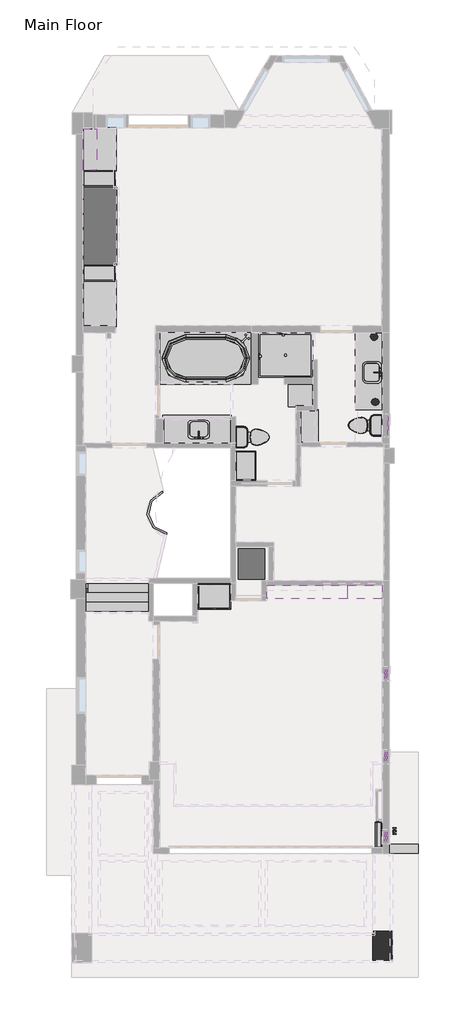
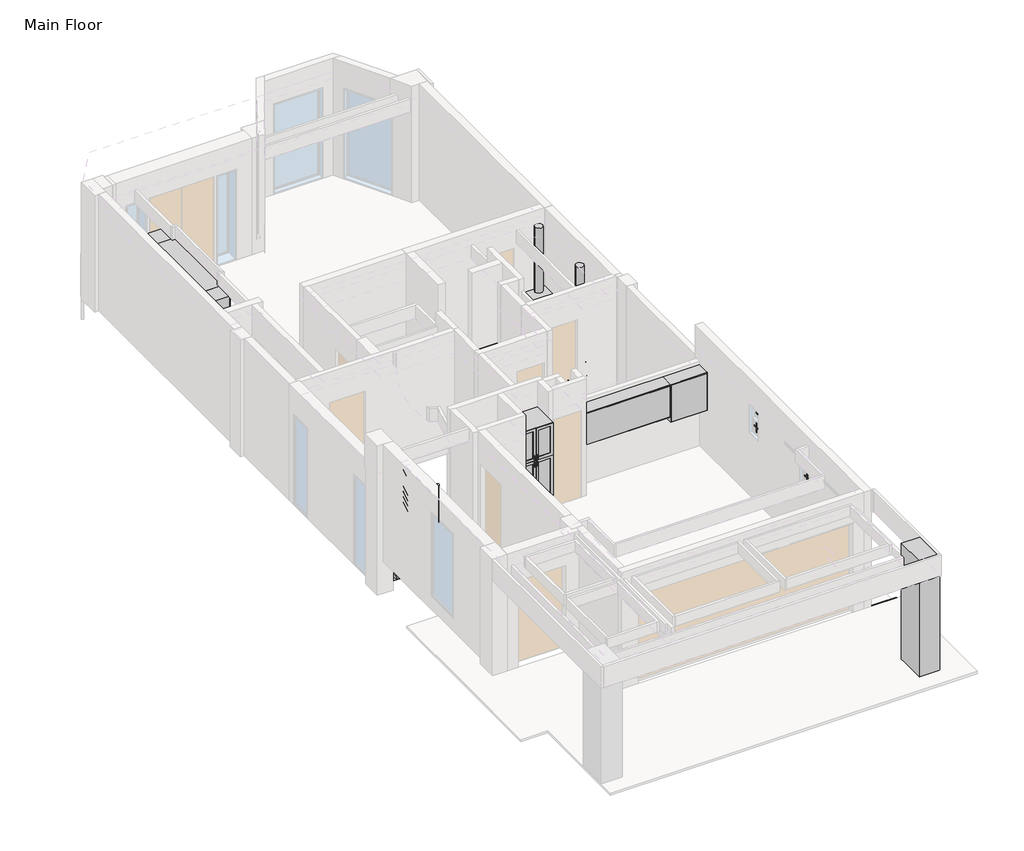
# One storey, part 4 of 4: 16 proxies, 8 flow terminals, 8 furniture elements, 3 columns, 2 railings, 2 stair flights.
"""IFC4 building model written with IfcOpenShell, lengths in millimetres."""

from ifc_helpers import new_model, si_unit, point, frame, frame_2d, origin, origin_with_axes, place, context, project, spatial, circle_curve, ellipse_curve, trimmed, segment, composite_curve, outline, extrude, faceted_brep, transform, mapped, element, save
from ifc_brep_helpers import plane_surface, revolved_surface, advanced_brep
from components import countertop_rectangle_shape_base_default_1_f1c427c6, countertop_rectangle_shape_base_default_1_d7b4d32e, countertop_rectangle_shape_base_default_1_7ad85c83, countertop_rectangle_shape_base_default_1_01a669eb, countertop_rectangle_shape_base_default_1_347bcdbc, countertop_rectangle_shape_base_default_1_d2164e0d, fireplace_default_1_940fdbfd, furnace_default_1_517aed99, hydro_meter_default_1_de04d33e, muntin_pattern_2x2_muntin_pattern_2x2_4ad91a20, muntin_pattern_2x2_muntin_pattern_2x2_75d79e6a, circular_column_3d_default_1_31dfe619, bath_shower_basin_rectangular_default_1_dcf8d1a9, bath_basin_do_not_use_500_x_440mm_22030706, bath_bathtub_angled_default_1_9777f4e5, default_1_a9700879, toilet_default_1_5cb52bd4, toilet_default_1_183bbd19, tall_cabinet_double_door_4_default_1_71ebce0d, tall_cabinet_double_door_4_default_1_548ee5f5, furniture_472c0a81, furniture_db22b6f1, upper_cabinet_single_door_wall_0_6_8ed0c04b, furniture_8603a8dd, furniture_cd85d869, furniture_00f4c585, railing_900mm_rectangular_stringer_only_800a5a53, stair_flight_50mm_tread_25mm_nosing_13mm_riser_26bbdbce, stair_flight_50mm_tread_25mm_nosing_13mm_riser_fec5b2e2

model = new_model("IFC4")

# Units and contexts
model_context = context("Model", 3, world=origin())
ifc_project = project(units=[si_unit("LENGTHUNIT", "METRE", prefix="MILLI")], contexts=[model_context])

# Site, building, storey
site = spatial("IfcSite", under=ifc_project)
building = spatial("IfcBuilding", under=site)
storey = spatial("IfcBuildingStorey", under=building, Name="Main Floor", Elevation=0.0)

# Proxies
placement = place(None, origin())
countertop_rectangle_shape_base_default_1_shape = countertop_rectangle_shape_base_default_1_f1c427c6(model_context)
element("IfcBuildingElementProxy", 1, Name="Countertop- Rectangle shape base : Default 1", ObjectType="Countertop- Rectangle shape base : Default 1", at=placement, inside=storey, context=model_context, shape_type="MappedRepresentation", body=[
    mapped(countertop_rectangle_shape_base_default_1_shape, transform((-4022.725, 6762.75, 0.0), x_axis=(1.0, 0.0, 0.0), y_axis=(0.0, 1.0, 0.0), z_axis=(0.0, 0.0, 1.0))),
])
countertop_rectangle_shape_base_default_1_2_shape = countertop_rectangle_shape_base_default_1_d7b4d32e(model_context)
element("IfcBuildingElementProxy", 2, Name="Countertop- Rectangle shape base : Default 1", ObjectType="Countertop- Rectangle shape base : Default 1", at=placement, inside=storey, context=model_context, shape_type="MappedRepresentation", body=[
    mapped(countertop_rectangle_shape_base_default_1_2_shape, transform((-1577.975, 7578.725, 0.0), x_axis=(1.0, 0.0, 0.0), y_axis=(0.0, 1.0, 0.0), z_axis=(0.0, 0.0, 1.0))),
])
countertop_rectangle_shape_base_default_1_3_shape = countertop_rectangle_shape_base_default_1_7ad85c83(model_context)
element("IfcBuildingElementProxy", 3, Name="Countertop- Rectangle shape base : Default 1", ObjectType="Countertop- Rectangle shape base : Default 1", at=placement, inside=storey, context=model_context, shape_type="MappedRepresentation", body=[
    mapped(countertop_rectangle_shape_base_default_1_3_shape, transform((1174.75, 7762.875, 0.0), x_axis=(0.0, 1.0, 0.0), y_axis=(-1.0, 0.0, 0.0), z_axis=(0.0, 0.0, 1.0))),
])
countertop_rectangle_shape_base_default_1_4_shape = countertop_rectangle_shape_base_default_1_01a669eb(model_context)
element("IfcBuildingElementProxy", 4, Name="Countertop- Rectangle shape base : Default 1", ObjectType="Countertop- Rectangle shape base : Default 1", at=placement, inside=storey, context=model_context, shape_type="MappedRepresentation", body=[
    mapped(countertop_rectangle_shape_base_default_1_4_shape, transform((-1384.3, 6838.95, 0.0), x_axis=(1.0, 0.0, 0.0), y_axis=(0.0, 1.0, 0.0), z_axis=(0.0, 0.0, 1.0))),
])
countertop_rectangle_shape_base_default_1_5_shape = countertop_rectangle_shape_base_default_1_347bcdbc(model_context)
element("IfcBuildingElementProxy", 5, Name="Countertop- Rectangle shape base : Default 1", ObjectType="Countertop- Rectangle shape base : Default 1", at=placement, inside=storey, context=model_context, shape_type="MappedRepresentation", body=[
    mapped(countertop_rectangle_shape_base_default_1_5_shape, transform((-5949.95, 10877.55, 0.0), x_axis=(0.0, -1.0, 0.0), y_axis=(1.0, 0.0, 0.0), z_axis=(0.0, 0.0, 1.0))),
])
countertop_rectangle_shape_base_default_1_6_shape = countertop_rectangle_shape_base_default_1_d2164e0d(model_context)
element("IfcBuildingElementProxy", 6, Name="Countertop- Rectangle shape base : Default 1", ObjectType="Countertop- Rectangle shape base : Default 1", at=placement, inside=storey, context=model_context, shape_type="MappedRepresentation", body=[
    mapped(countertop_rectangle_shape_base_default_1_6_shape, transform((-5949.95, 12985.75, 0.0), x_axis=(0.0, 1.0, 0.0), y_axis=(-1.0, 0.0, 0.0), z_axis=(0.0, 0.0, 1.0))),
])
fireplace_default_1_shape = fireplace_default_1_940fdbfd(model_context)
element("IfcBuildingElementProxy", 7, Name="Fireplace : Default 1", ObjectType="Fireplace : Default 1", at=placement, inside=storey, context=model_context, shape_type="MappedRepresentation", body=[
    mapped(fireplace_default_1_shape, transform((-6049.95, 11947.525, 0.0), x_axis=(0.0, 1.0, 0.0), y_axis=(-1.0, 0.0, 0.0), z_axis=(0.0, 0.0, 1.0))),
])
furnace_default_1_shape = furnace_default_1_517aed99(model_context)
element("IfcBuildingElementProxy", 8, Name="Furnace : Default 1", ObjectType="Furnace : Default 1", at=placement, inside=storey, context=model_context, shape_type="MappedRepresentation", body=[
    mapped(furnace_default_1_shape, transform((-2286.0, 3613.15, 762.0), x_axis=(-1.0, 0.0, 0.0), y_axis=(0.0, -1.0, 0.0), z_axis=(0.0, 0.0, 1.0))),
])
hydro_meter_default_1_shape = hydro_meter_default_1_de04d33e(model_context)
element("IfcBuildingElementProxy", 9, Name="Hydro Meter : Default 1", ObjectType="Hydro Meter : Default 1", at=placement, inside=storey, context=model_context, shape_type="MappedRepresentation", body=[
    mapped(hydro_meter_default_1_shape, transform((1270.0, -2145.5585279, 457.2), x_axis=(0.0, -1.0, 0.0), y_axis=(1.0, 0.0, 0.0), z_axis=(0.0, 0.0, 1.0))),
])
muntin_pattern_2x2_muntin_pattern_2x2_shape = muntin_pattern_2x2_muntin_pattern_2x2_4ad91a20(model_context)
element("IfcBuildingElementProxy", 10, Name="Muntin Pattern_2x2 : Muntin Pattern_2x2", ObjectType="Muntin Pattern_2x2 : Muntin Pattern_2x2", at=placement, inside=storey, context=model_context, shape_type="MappedRepresentation", body=[
    mapped(muntin_pattern_2x2_muntin_pattern_2x2_shape, transform((1235.075, -568.325, 2587.625), x_axis=(0.0, -1.0, 0.0), y_axis=(1.0, 0.0, 0.0), z_axis=(0.0, 0.0, 1.0))),
])
element("IfcBuildingElementProxy", 11, Name="Muntin Pattern_2x2 : Muntin Pattern_2x2", ObjectType="Muntin Pattern_2x2 : Muntin Pattern_2x2", at=placement, inside=storey, context=model_context, shape_type="MappedRepresentation", body=[
    mapped(muntin_pattern_2x2_muntin_pattern_2x2_shape, transform((1190.625, -568.325, 2311.4), x_axis=(0.0, -1.0, 0.0), y_axis=(1.0, 0.0, 0.0), z_axis=(0.0, 0.0, 1.0))),
])
element("IfcBuildingElementProxy", 12, Name="Muntin Pattern_2x2 : Muntin Pattern_2x2", ObjectType="Muntin Pattern_2x2 : Muntin Pattern_2x2", at=placement, inside=storey, context=model_context, shape_type="MappedRepresentation", body=[
    mapped(muntin_pattern_2x2_muntin_pattern_2x2_shape, transform((1235.075, -2459.0375, 2587.625), x_axis=(0.0, -1.0, 0.0), y_axis=(1.0, 0.0, 0.0), z_axis=(0.0, 0.0, 1.0))),
])
element("IfcBuildingElementProxy", 13, Name="Muntin Pattern_2x2 : Muntin Pattern_2x2", ObjectType="Muntin Pattern_2x2 : Muntin Pattern_2x2", at=placement, inside=storey, context=model_context, shape_type="MappedRepresentation", body=[
    mapped(muntin_pattern_2x2_muntin_pattern_2x2_shape, transform((1190.625, -2459.0375, 2311.4), x_axis=(0.0, -1.0, 0.0), y_axis=(1.0, 0.0, 0.0), z_axis=(0.0, 0.0, 1.0))),
])
element("IfcBuildingElementProxy", 14, Name="Muntin Pattern_2x2 : Muntin Pattern_2x2", ObjectType="Muntin Pattern_2x2 : Muntin Pattern_2x2", at=placement, inside=storey, context=model_context, shape_type="MappedRepresentation", body=[
    mapped(muntin_pattern_2x2_muntin_pattern_2x2_shape, transform((1235.075, 1381.125, 2587.625), x_axis=(0.0, -1.0, 0.0), y_axis=(1.0, 0.0, 0.0), z_axis=(0.0, 0.0, 1.0))),
])
element("IfcBuildingElementProxy", 15, Name="Muntin Pattern_2x2 : Muntin Pattern_2x2", ObjectType="Muntin Pattern_2x2 : Muntin Pattern_2x2", at=placement, inside=storey, context=model_context, shape_type="MappedRepresentation", body=[
    mapped(muntin_pattern_2x2_muntin_pattern_2x2_shape, transform((1190.625, 1381.125, 2311.4), x_axis=(0.0, -1.0, 0.0), y_axis=(1.0, 0.0, 0.0), z_axis=(0.0, 0.0, 1.0))),
])
muntin_pattern_2x2_muntin_pattern_2x2_2_shape = muntin_pattern_2x2_muntin_pattern_2x2_75d79e6a(model_context)
element("IfcBuildingElementProxy", 16, Name="Muntin Pattern_2x2 : Muntin Pattern_2x2", ObjectType="Muntin Pattern_2x2 : Muntin Pattern_2x2", at=placement, inside=storey, context=model_context, shape_type="MappedRepresentation", body=[
    mapped(muntin_pattern_2x2_muntin_pattern_2x2_2_shape, transform((1260.475, 7243.7625, 1441.45), x_axis=(0.0, 1.0, 0.0), y_axis=(-1.0, 0.0, 0.0), z_axis=(0.0, 0.0, 1.0))),
])

# Columns
circular_column_3d_default_1_shape = circular_column_3d_default_1_31dfe619(model_context)
element("IfcColumn", 17, ObjectType="Circular Column 3D : Default 1", at=placement, inside=storey, context=model_context, shape_type="MappedRepresentation", body=[
    mapped(circular_column_3d_default_1_shape, transform((939.8, 7797.8, 0.0), x_axis=(1.0, 0.0, 0.0), y_axis=(0.0, 1.0, 0.0), z_axis=(0.0, 0.0, 1.0))),
])
element("IfcColumn", 18, ObjectType="Circular Column 3D : Default 1", at=placement, inside=storey, context=model_context, shape_type="MappedRepresentation", body=[
    mapped(circular_column_3d_default_1_shape, transform((914.4, 9334.5, 0.0), x_axis=(1.0, 0.0, 0.0), y_axis=(0.0, 1.0, 0.0), z_axis=(0.0, 0.0, 1.0))),
])
element("IfcColumn", 19, ObjectType="Rectangular Column 3D : Default 1", at=placement, inside=storey, context=model_context, shape_type="Brep", body=[
    faceted_brep([(882.65, -4692.65, 3492.5), (882.65, -5378.45, 3492.5), (1296.492578, -5378.45, 3492.5), (1296.492578, -4692.65, 3492.5), (1339.85, -4692.65, 762.0), (1339.85, -5378.45, 762.0), (882.65, -5378.45, 762.0), (882.65, -4692.65, 762.0), (882.65, -4692.65, 3009.9), (933.45, -4692.65, 3009.9), (933.45, -4692.65, 3213.1), (882.65, -4692.65, 3213.1), (1296.492578, -4692.65, 3009.9), (1339.85, -4692.65, 3009.9), (882.65, -4740.4040809, 3213.1), (882.65, -4791.2040809, 3213.1), (882.65, -4791.2040809, 3009.9), (882.65, -4740.4040809, 3009.9), (1339.85, -5378.45, 3009.9), (1296.492578, -5378.45, 3009.9), (933.45, -4791.2040809, 3213.1), (933.45, -4791.2040809, 3009.9), (933.45, -4740.4040809, 3213.1), (933.45, -4740.4040809, 3009.9)], [[[0, 1, 2, 3]], [[4, 5, 6, 7]], [[4, 7, 8, 9, 10, 11, 0, 3, 12, 13]], [[1, 0, 11, 14, 15, 16, 17, 8, 7, 6]], [[6, 5, 18, 19, 2, 1]], [[5, 4, 13, 18]], [[15, 20, 21, 16]], [[20, 15, 14, 22]], [[16, 21, 23, 17]], [[22, 10, 9, 23]], [[10, 22, 14, 11]], [[21, 20, 22, 23]], [[23, 9, 8, 17]], [[19, 12, 3, 2]], [[12, 19, 18, 13]]]),
])

# Flow terminals
bath_shower_basin_rectangular_default_1_shape = bath_shower_basin_rectangular_default_1_dcf8d1a9(model_context)
element("IfcFlowTerminal", 20, ObjectType="Bath- Shower - Basin Rectangular : Default 1", at=placement, inside=storey, context=model_context, shape_type="MappedRepresentation", body=[
    mapped(bath_shower_basin_rectangular_default_1_shape, transform((-1177.925, 8902.7, 0.0), x_axis=(0.0, -1.0, 0.0), y_axis=(1.0, 0.0, 0.0), z_axis=(0.0, 0.0, 1.0))),
])
bath_basin_do_not_use_500_x_440mm_shape = bath_basin_do_not_use_500_x_440mm_22030706(model_context)
element("IfcFlowTerminal", 21, ObjectType="Bath-Basin DO NOT USE : 500 x 440mm", at=placement, inside=storey, context=model_context, shape_type="MappedRepresentation", body=[
    mapped(bath_basin_do_not_use_500_x_440mm_shape, transform((-3206.7107594, 7108.0454011, 152.4), x_axis=(-1.0, 0.0, 0.0), y_axis=(0.0, -1.0, 0.0), z_axis=(0.0, 0.0, 1.0))),
])
element("IfcFlowTerminal", 22, ObjectType="Bath-Basin DO NOT USE : 500 x 440mm", at=placement, inside=storey, context=model_context, shape_type="MappedRepresentation", body=[
    mapped(bath_basin_do_not_use_500_x_440mm_shape, transform((901.2545989, 8508.6892406, 152.4), x_axis=(0.0, -1.0, 0.0), y_axis=(1.0, 0.0, 0.0), z_axis=(0.0, 0.0, 1.0))),
])
bath_bathtub_angled_default_1_shape = bath_bathtub_angled_default_1_9777f4e5(model_context)
element("IfcFlowTerminal", 23, ObjectType="Bath-Bathtub Angled : Default 1", at=placement, inside=storey, context=model_context, shape_type="MappedRepresentation", body=[
    mapped(bath_bathtub_angled_default_1_shape, transform((-3060.7, 8826.5, 0.0), x_axis=(0.0, 1.0, 0.0), y_axis=(-1.0, 0.0, 0.0), z_axis=(0.0, 0.0, 1.0))),
])
default_1_shape = default_1_a9700879(model_context)
element("IfcFlowTerminal", 24, ObjectType="Bath-Showerhead : Default 1", at=placement, inside=storey, context=model_context, shape_type="MappedRepresentation", body=[
    mapped(default_1_shape, transform((-1816.1, 8870.95, 0.0), x_axis=(0.0, 1.0, 0.0), y_axis=(-1.0, 0.0, 0.0), z_axis=(0.0, 0.0, 1.0))),
])
element("IfcFlowTerminal", 25, ObjectType="Bath-Showerhead : Default 1", at=placement, inside=storey, context=model_context, shape_type="MappedRepresentation", body=[
    mapped(default_1_shape, transform((-1231.9, 9423.4, 0.0), x_axis=(1.0, 0.0, 0.0), y_axis=(0.0, 1.0, 0.0), z_axis=(0.0, 0.0, 1.0))),
])
toilet_default_1_shape = toilet_default_1_5cb52bd4(model_context)
toilet_default_1_2_shape = toilet_default_1_183bbd19(model_context)
element("IfcFlowTerminal", 26, ObjectType="Toilet : Default 1", at=placement, inside=storey, context=model_context, shape_type="MappedRepresentation", body=[
    mapped(toilet_default_1_shape, transform((-1861.1539726, 6965.3460274, 0.0), x_axis=(0.0, 1.0, 0.0), y_axis=(-1.0, 0.0, 0.0), z_axis=(0.0, 0.0, 1.0))),
    mapped(toilet_default_1_2_shape, transform((-1861.1539726, 6965.3460274, 0.0), x_axis=(0.0, 1.0, 0.0), y_axis=(-1.0, 0.0, 0.0), z_axis=(0.0, 0.0, 1.0))),
])
element("IfcFlowTerminal", 27, ObjectType="Toilet : Default 1", at=placement, inside=storey, context=model_context, shape_type="MappedRepresentation", body=[
    mapped(toilet_default_1_shape, transform((610.2039726, 7243.7322, 0.0), x_axis=(0.0, -1.0, 0.0), y_axis=(1.0, 0.0, 0.0), z_axis=(0.0, 0.0, 1.0))),
    mapped(toilet_default_1_2_shape, transform((610.2039726, 7243.7322, 0.0), x_axis=(0.0, -1.0, 0.0), y_axis=(1.0, 0.0, 0.0), z_axis=(0.0, 0.0, 1.0))),
])

# Furniture
tall_cabinet_double_door_4_default_1_shape = tall_cabinet_double_door_4_default_1_71ebce0d(model_context)
element("IfcFurniture", 28, ObjectType="Tall Cabinet-Double Door(4) : Default 1", at=placement, inside=storey, context=model_context, shape_type="MappedRepresentation", body=[
    mapped(tall_cabinet_double_door_4_default_1_shape, transform((-2355.85, 6270.9372951, 0.0), x_axis=(0.0, 1.0, 0.0), y_axis=(-1.0, 0.0, 0.0), z_axis=(0.0, 0.0, 1.0))),
])
tall_cabinet_double_door_4_default_1_2_shape = tall_cabinet_double_door_4_default_1_548ee5f5(model_context)
element("IfcFurniture", 29, ObjectType="Tall Cabinet-Double Door(4) : Default 1", at=placement, inside=storey, context=model_context, shape_type="MappedRepresentation", body=[
    mapped(tall_cabinet_double_door_4_default_1_2_shape, transform((-2876.2377049, 3517.9, 762.0), x_axis=(1.0, 0.0, 0.0), y_axis=(0.0, 1.0, 0.0), z_axis=(0.0, 0.0, 1.0))),
])
furniture_shape = furniture_472c0a81(model_context)
element("IfcFurniture", 30, ObjectType="Tall Cabinet-Single Door(2) : 15\"", at=placement, inside=storey, context=model_context, shape_type="MappedRepresentation", body=[
    mapped(furniture_shape, transform((-5949.95, 10814.3622951, 0.0), x_axis=(0.0, 1.0, 0.0), y_axis=(-1.0, 0.0, 0.0), z_axis=(0.0, 0.0, 1.0))),
])
furniture_2_shape = furniture_db22b6f1(model_context)
element("IfcFurniture", 31, ObjectType="Tall Cabinet-Single Door(2) : 15\"", at=placement, inside=storey, context=model_context, shape_type="MappedRepresentation", body=[
    mapped(furniture_2_shape, transform((-5949.95, 13080.6877049, 0.0), x_axis=(0.0, -1.0, 0.0), y_axis=(1.0, 0.0, 0.0), z_axis=(0.0, 0.0, 1.0))),
])
upper_cabinet_single_door_wall_0_6_shape = upper_cabinet_single_door_wall_0_6_8ed0c04b(model_context)
element("IfcFurniture", 32, ObjectType="Upper Cabinet-Single Door-Wall : 0 6", at=placement, inside=storey, context=model_context, shape_type="MappedRepresentation", body=[
    mapped(upper_cabinet_single_door_wall_0_6_shape, transform((1187.45, -2355.0718733, 101.6), x_axis=(0.0, 1.0, 0.0), y_axis=(-1.0, 0.0, 0.0), z_axis=(0.0, 0.0, 1.0))),
])
furniture_3_shape = furniture_8603a8dd(model_context)
element("IfcFurniture", 33, ObjectType="Upper Cabinet-Single Door-Wall : 12\"", at=placement, inside=storey, context=model_context, shape_type="MappedRepresentation", body=[
    mapped(furniture_3_shape, transform((-6032.5, 13518.2502897, -177.8), x_axis=(0.0, -1.0, 0.0), y_axis=(1.0, 0.0, 0.0), z_axis=(0.0, 0.0, 1.0))),
])
furniture_4_shape = furniture_cd85d869(model_context)
element("IfcFurniture", 34, ObjectType="Upper Cabinet-Single Door-Wall : 15\"", at=placement, inside=storey, context=model_context, shape_type="MappedRepresentation", body=[
    mapped(furniture_4_shape, transform((-1360.8842098, 3524.25, 533.4), x_axis=(-1.0, 0.0, 0.0), y_axis=(0.0, -1.0, 0.0), z_axis=(0.0, 0.0, 1.0))),
])
furniture_5_shape = furniture_00f4c585(model_context)
element("IfcFurniture", 35, ObjectType="Upper Cabinet-Single Door-Wall : 15\"", at=placement, inside=storey, context=model_context, shape_type="MappedRepresentation", body=[
    mapped(furniture_5_shape, transform((546.6323546, 3524.25, 533.4), x_axis=(-1.0, 0.0, 0.0), y_axis=(0.0, -1.0, 0.0), z_axis=(0.0, 0.0, 1.0))),
])

# Railings
element("IfcRailing", 36, ObjectType="900mm Pipe", at=placement, inside=storey, context=model_context, shape_type="SolidModel", body=[
    advanced_brep(
    [(-3979.7814181, 4713.6842474, 880.0), (-4068.8262372, 5649.9100943, 880.0), (-4080.4995504, 5688.1688679, 880.0), (-3984.0330594, 4673.9108449, 880.0)],
    [
        (0, 1, circle_curve(frame((-3928.770454, 5190.8833887, 880.0), z_axis=(0.0, 0.0, -1.0), x_axis=(-0.29183282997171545, 0.9564693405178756, 0.0)), 479.917846)),
        (1, 2, circle_curve(frame((-4074.6628938, 5669.0394811, 880.0), z_axis=(-0.9564693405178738, -0.2918328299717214, 0.0), x_axis=(0.2918328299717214, -0.9564693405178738, 0.0)), 20.0)),
        (2, 3, circle_curve(frame((-3928.770454, 5190.8833887, 880.0), z_axis=(0.0, 0.0, 1.0), x_axis=(-0.29183282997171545, 0.9564693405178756, 0.0)), 519.917846)),
        (3, 0, circle_curve(frame((-3981.9072387, 4693.7975462, 880.0), z_axis=(-0.9943350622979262, 0.10629103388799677, 0.0), x_axis=(0.10629103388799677, 0.9943350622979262, 0.0)), 20.0)),
        (2, 1, circle_curve(frame((-4074.6628938, 5669.0394811, 880.0), z_axis=(-0.9564693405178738, -0.29183282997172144, 0.0), x_axis=(0.29183282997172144, -0.9564693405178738, 0.0)), 20.0)),
        (0, 3, circle_curve(frame((-3981.9072387, 4693.7975462, 880.0), z_axis=(-0.994335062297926, 0.10629103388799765, 0.0), x_axis=(0.10629103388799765, 0.994335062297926, 0.0)), 20.0)),
    ],
    [
        revolved_surface(trimmed(ellipse_curve(frame((-4074.6628938, 5669.0394811, 880.0), z_axis=(0.9564693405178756, 0.29183282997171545, 0.0), x_axis=(0.29183282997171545, -0.9564693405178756, 0.0)), 20.0, 20.0), [point((-4080.4995504, 5688.1688679, 880.0))], [point((-4068.8262372, 5649.9100943, 880.0))], True, "CARTESIAN"), (-3928.770454, 5190.8833887, 900.0), (0.0, 0.0, 1.0)),
        revolved_surface(trimmed(ellipse_curve(frame((-4074.6628938, 5669.0394811, 880.0), z_axis=(0.9564693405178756, 0.29183282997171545, 0.0), x_axis=(0.29183282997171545, -0.9564693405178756, 0.0)), 20.0, 20.0), [point((-4068.8262372, 5649.9100943, 880.0))], [point((-4080.4995504, 5688.1688679, 880.0))], True, "CARTESIAN"), (-3928.770454, 5190.8833887, 900.0), (0.0, 0.0, 1.0)),
        plane_surface(frame((-4074.6628938, 5669.0394811, 900.0), z_axis=(0.9564693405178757, 0.2918328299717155, 0.0), x_axis=(0.2918328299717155, -0.9564693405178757, 0.0))),
        plane_surface(frame((-3981.9072387, 4693.7975462, 900.0), z_axis=(0.9943350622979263, -0.1062910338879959, 0.0), x_axis=(0.1062910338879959, 0.9943350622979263, 0.0))),
    ],
    [
        (0, [[1, 2, 3, 4]]),
        (1, [[-3, 5, -1, 6]]),
        (2, [[-2, -5]]),
        (3, [[-6, -4]]),
    ],
),
    advanced_brep(
    [(-3983.5016042, 4678.8825203, 760.0), (-4079.0403862, 5683.3865212, 760.0), (-4070.2854013, 5654.692441, 760.0), (-3980.3128732, 4708.7125721, 760.0)],
    [
        (0, 1, circle_curve(frame((-3928.770454, 5190.8833887, 760.0), z_axis=(0.0, 0.0, -1.0), x_axis=(-0.29183282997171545, 0.9564693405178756, 0.0)), 514.917846)),
        (1, 2, circle_curve(frame((-4074.6628938, 5669.0394811, 760.0), z_axis=(-0.9564693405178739, -0.291832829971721, 0.0), x_axis=(-0.291832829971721, 0.9564693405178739, 0.0)), 15.0)),
        (2, 3, circle_curve(frame((-3928.770454, 5190.8833887, 760.0), z_axis=(0.0, 0.0, 1.0), x_axis=(-0.29183282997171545, 0.9564693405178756, 0.0)), 484.917846)),
        (3, 0, circle_curve(frame((-3981.9072387, 4693.7975462, 760.0), z_axis=(-0.9943350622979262, 0.10629103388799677, 0.0), x_axis=(-0.10629103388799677, -0.9943350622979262, 0.0)), 15.0)),
        (2, 1, circle_curve(frame((-4074.6628938, 5669.0394811, 760.0), z_axis=(-0.9564693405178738, -0.29183282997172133, 0.0), x_axis=(-0.29183282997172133, 0.9564693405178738, 0.0)), 15.0)),
        (0, 3, circle_curve(frame((-3981.9072387, 4693.7975462, 760.0), z_axis=(-0.994335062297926, 0.1062910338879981, 0.0), x_axis=(-0.1062910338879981, -0.994335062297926, 0.0)), 15.0)),
    ],
    [
        revolved_surface(trimmed(ellipse_curve(frame((-4074.6628938, 5669.0394811, 760.0), z_axis=(0.9564693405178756, 0.29183282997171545, 0.0), x_axis=(-0.29183282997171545, 0.9564693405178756, 0.0)), 15.0, 15.0), [point((-4070.2854013, 5654.692441, 760.0))], [point((-4079.0403862, 5683.3865212, 760.0))], True, "CARTESIAN"), (-3928.770454, 5190.8833887, 775.0), (0.0, 0.0, 1.0)),
        revolved_surface(trimmed(ellipse_curve(frame((-4074.6628938, 5669.0394811, 760.0), z_axis=(0.9564693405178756, 0.29183282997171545, 0.0), x_axis=(-0.29183282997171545, 0.9564693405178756, 0.0)), 15.0, 15.0), [point((-4079.0403862, 5683.3865212, 760.0))], [point((-4070.2854013, 5654.692441, 760.0))], True, "CARTESIAN"), (-3928.770454, 5190.8833887, 775.0), (0.0, 0.0, 1.0)),
        plane_surface(frame((-4074.6628938, 5669.0394811, 775.0), z_axis=(0.9564693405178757, 0.2918328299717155, 0.0), x_axis=(0.2918328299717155, -0.9564693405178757, 0.0))),
        plane_surface(frame((-3981.9072387, 4693.7975462, 775.0), z_axis=(0.9943350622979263, -0.1062910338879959, 0.0), x_axis=(0.1062910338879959, 0.9943350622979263, 0.0))),
    ],
    [
        (0, [[1, 2, 3, 4]]),
        (1, [[-3, 5, -1, 6]]),
        (2, [[-2, -5]]),
        (3, [[-6, -4]]),
    ],
),
    advanced_brep(
    [(-3983.5016042, 4678.8825203, 635.0), (-4079.0403862, 5683.3865212, 635.0), (-4070.2854013, 5654.692441, 635.0), (-3980.3128732, 4708.7125721, 635.0)],
    [
        (0, 1, circle_curve(frame((-3928.770454, 5190.8833887, 635.0), z_axis=(0.0, 0.0, -1.0), x_axis=(-0.29183282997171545, 0.9564693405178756, 0.0)), 514.917846)),
        (1, 2, circle_curve(frame((-4074.6628938, 5669.0394811, 635.0), z_axis=(-0.9564693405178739, -0.291832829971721, 0.0), x_axis=(-0.291832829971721, 0.9564693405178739, 0.0)), 15.0)),
        (2, 3, circle_curve(frame((-3928.770454, 5190.8833887, 635.0), z_axis=(0.0, 0.0, 1.0), x_axis=(-0.29183282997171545, 0.9564693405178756, 0.0)), 484.917846)),
        (3, 0, circle_curve(frame((-3981.9072387, 4693.7975462, 635.0), z_axis=(-0.9943350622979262, 0.10629103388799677, 0.0), x_axis=(-0.10629103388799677, -0.9943350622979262, 0.0)), 15.0)),
        (2, 1, circle_curve(frame((-4074.6628938, 5669.0394811, 635.0), z_axis=(-0.9564693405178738, -0.29183282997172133, 0.0), x_axis=(-0.29183282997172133, 0.9564693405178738, 0.0)), 15.0)),
        (0, 3, circle_curve(frame((-3981.9072387, 4693.7975462, 635.0), z_axis=(-0.994335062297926, 0.1062910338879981, 0.0), x_axis=(-0.1062910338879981, -0.994335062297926, 0.0)), 15.0)),
    ],
    [
        revolved_surface(trimmed(ellipse_curve(frame((-4074.6628938, 5669.0394811, 635.0), z_axis=(0.9564693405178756, 0.29183282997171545, 0.0), x_axis=(-0.29183282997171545, 0.9564693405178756, 0.0)), 15.0, 15.0), [point((-4070.2854013, 5654.692441, 635.0))], [point((-4079.0403862, 5683.3865212, 635.0))], True, "CARTESIAN"), (-3928.770454, 5190.8833887, 650.0), (0.0, 0.0, 1.0)),
        revolved_surface(trimmed(ellipse_curve(frame((-4074.6628938, 5669.0394811, 635.0), z_axis=(0.9564693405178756, 0.29183282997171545, 0.0), x_axis=(-0.29183282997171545, 0.9564693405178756, 0.0)), 15.0, 15.0), [point((-4079.0403862, 5683.3865212, 635.0))], [point((-4070.2854013, 5654.692441, 635.0))], True, "CARTESIAN"), (-3928.770454, 5190.8833887, 650.0), (0.0, 0.0, 1.0)),
        plane_surface(frame((-4074.6628938, 5669.0394811, 650.0), z_axis=(0.9564693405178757, 0.2918328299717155, 0.0), x_axis=(0.2918328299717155, -0.9564693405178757, 0.0))),
        plane_surface(frame((-3981.9072387, 4693.7975462, 650.0), z_axis=(0.9943350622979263, -0.1062910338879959, 0.0), x_axis=(0.1062910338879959, 0.9943350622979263, 0.0))),
    ],
    [
        (0, [[1, 2, 3, 4]]),
        (1, [[-3, 5, -1, 6]]),
        (2, [[-2, -5]]),
        (3, [[-6, -4]]),
    ],
),
    advanced_brep(
    [(-3983.5016042, 4678.8825203, 510.0), (-4079.0403862, 5683.3865212, 510.0), (-4070.2854013, 5654.692441, 510.0), (-3980.3128732, 4708.7125721, 510.0)],
    [
        (0, 1, circle_curve(frame((-3928.770454, 5190.8833887, 510.0), z_axis=(0.0, 0.0, -1.0), x_axis=(-0.29183282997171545, 0.9564693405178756, 0.0)), 514.917846)),
        (1, 2, circle_curve(frame((-4074.6628938, 5669.0394811, 510.0), z_axis=(-0.9564693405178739, -0.291832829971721, 0.0), x_axis=(-0.291832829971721, 0.9564693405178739, 0.0)), 15.0)),
        (2, 3, circle_curve(frame((-3928.770454, 5190.8833887, 510.0), z_axis=(0.0, 0.0, 1.0), x_axis=(-0.29183282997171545, 0.9564693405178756, 0.0)), 484.917846)),
        (3, 0, circle_curve(frame((-3981.9072387, 4693.7975462, 510.0), z_axis=(-0.9943350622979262, 0.10629103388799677, 0.0), x_axis=(-0.10629103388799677, -0.9943350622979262, 0.0)), 15.0)),
        (2, 1, circle_curve(frame((-4074.6628938, 5669.0394811, 510.0), z_axis=(-0.9564693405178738, -0.29183282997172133, 0.0), x_axis=(-0.29183282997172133, 0.9564693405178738, 0.0)), 15.0)),
        (0, 3, circle_curve(frame((-3981.9072387, 4693.7975462, 510.0), z_axis=(-0.994335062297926, 0.1062910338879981, 0.0), x_axis=(-0.1062910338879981, -0.994335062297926, 0.0)), 15.0)),
    ],
    [
        revolved_surface(trimmed(ellipse_curve(frame((-4074.6628938, 5669.0394811, 510.0), z_axis=(0.9564693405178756, 0.29183282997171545, 0.0), x_axis=(-0.29183282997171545, 0.9564693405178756, 0.0)), 15.0, 15.0), [point((-4070.2854013, 5654.692441, 510.0))], [point((-4079.0403862, 5683.3865212, 510.0))], True, "CARTESIAN"), (-3928.770454, 5190.8833887, 525.0), (0.0, 0.0, 1.0)),
        revolved_surface(trimmed(ellipse_curve(frame((-4074.6628938, 5669.0394811, 510.0), z_axis=(0.9564693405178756, 0.29183282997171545, 0.0), x_axis=(-0.29183282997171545, 0.9564693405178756, 0.0)), 15.0, 15.0), [point((-4079.0403862, 5683.3865212, 510.0))], [point((-4070.2854013, 5654.692441, 510.0))], True, "CARTESIAN"), (-3928.770454, 5190.8833887, 525.0), (0.0, 0.0, 1.0)),
        plane_surface(frame((-4074.6628938, 5669.0394811, 525.0), z_axis=(0.9564693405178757, 0.2918328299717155, 0.0), x_axis=(0.2918328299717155, -0.9564693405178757, 0.0))),
        plane_surface(frame((-3981.9072387, 4693.7975462, 525.0), z_axis=(0.9943350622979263, -0.1062910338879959, 0.0), x_axis=(0.1062910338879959, 0.9943350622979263, 0.0))),
    ],
    [
        (0, [[1, 2, 3, 4]]),
        (1, [[-3, 5, -1, 6]]),
        (2, [[-2, -5]]),
        (3, [[-6, -4]]),
    ],
),
    advanced_brep(
    [(-3983.5016042, 4678.8825203, 385.0), (-4079.0403862, 5683.3865212, 385.0), (-4070.2854013, 5654.692441, 385.0), (-3980.3128732, 4708.7125721, 385.0)],
    [
        (0, 1, circle_curve(frame((-3928.770454, 5190.8833887, 385.0), z_axis=(0.0, 0.0, -1.0), x_axis=(-0.29183282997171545, 0.9564693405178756, 0.0)), 514.917846)),
        (1, 2, circle_curve(frame((-4074.6628938, 5669.0394811, 385.0), z_axis=(-0.9564693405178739, -0.291832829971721, 0.0), x_axis=(-0.291832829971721, 0.9564693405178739, 0.0)), 15.0)),
        (2, 3, circle_curve(frame((-3928.770454, 5190.8833887, 385.0), z_axis=(0.0, 0.0, 1.0), x_axis=(-0.29183282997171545, 0.9564693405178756, 0.0)), 484.917846)),
        (3, 0, circle_curve(frame((-3981.9072387, 4693.7975462, 385.0), z_axis=(-0.9943350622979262, 0.10629103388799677, 0.0), x_axis=(-0.10629103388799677, -0.9943350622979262, 0.0)), 15.0)),
        (2, 1, circle_curve(frame((-4074.6628938, 5669.0394811, 385.0), z_axis=(-0.9564693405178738, -0.29183282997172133, 0.0), x_axis=(-0.29183282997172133, 0.9564693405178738, 0.0)), 15.0)),
        (0, 3, circle_curve(frame((-3981.9072387, 4693.7975462, 385.0), z_axis=(-0.994335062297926, 0.1062910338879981, 0.0), x_axis=(-0.1062910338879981, -0.994335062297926, 0.0)), 15.0)),
    ],
    [
        revolved_surface(trimmed(ellipse_curve(frame((-4074.6628938, 5669.0394811, 385.0), z_axis=(0.9564693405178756, 0.29183282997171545, 0.0), x_axis=(-0.29183282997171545, 0.9564693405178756, 0.0)), 15.0, 15.0), [point((-4070.2854013, 5654.692441, 385.0))], [point((-4079.0403862, 5683.3865212, 385.0))], True, "CARTESIAN"), (-3928.770454, 5190.8833887, 400.0), (0.0, 0.0, 1.0)),
        revolved_surface(trimmed(ellipse_curve(frame((-4074.6628938, 5669.0394811, 385.0), z_axis=(0.9564693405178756, 0.29183282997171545, 0.0), x_axis=(-0.29183282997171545, 0.9564693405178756, 0.0)), 15.0, 15.0), [point((-4079.0403862, 5683.3865212, 385.0))], [point((-4070.2854013, 5654.692441, 385.0))], True, "CARTESIAN"), (-3928.770454, 5190.8833887, 400.0), (0.0, 0.0, 1.0)),
        plane_surface(frame((-4074.6628938, 5669.0394811, 400.0), z_axis=(0.9564693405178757, 0.2918328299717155, 0.0), x_axis=(0.2918328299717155, -0.9564693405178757, 0.0))),
        plane_surface(frame((-3981.9072387, 4693.7975462, 400.0), z_axis=(0.9943350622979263, -0.1062910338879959, 0.0), x_axis=(0.1062910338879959, 0.9943350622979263, 0.0))),
    ],
    [
        (0, [[1, 2, 3, 4]]),
        (1, [[-3, 5, -1, 6]]),
        (2, [[-2, -5]]),
        (3, [[-6, -4]]),
    ],
),
    advanced_brep(
    [(-3983.5016042, 4678.8825203, 260.0), (-4079.0403862, 5683.3865212, 260.0), (-4070.2854013, 5654.692441, 260.0), (-3980.3128732, 4708.7125721, 260.0)],
    [
        (0, 1, circle_curve(frame((-3928.770454, 5190.8833887, 260.0), z_axis=(0.0, 0.0, -1.0), x_axis=(-0.29183282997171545, 0.9564693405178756, 0.0)), 514.917846)),
        (1, 2, circle_curve(frame((-4074.6628938, 5669.0394811, 260.0), z_axis=(-0.9564693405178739, -0.291832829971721, 0.0), x_axis=(-0.291832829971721, 0.9564693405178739, 0.0)), 15.0)),
        (2, 3, circle_curve(frame((-3928.770454, 5190.8833887, 260.0), z_axis=(0.0, 0.0, 1.0), x_axis=(-0.29183282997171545, 0.9564693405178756, 0.0)), 484.917846)),
        (3, 0, circle_curve(frame((-3981.9072387, 4693.7975462, 260.0), z_axis=(-0.9943350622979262, 0.10629103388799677, 0.0), x_axis=(-0.10629103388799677, -0.9943350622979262, 0.0)), 15.0)),
        (2, 1, circle_curve(frame((-4074.6628938, 5669.0394811, 260.0), z_axis=(-0.9564693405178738, -0.29183282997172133, 0.0), x_axis=(-0.29183282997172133, 0.9564693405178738, 0.0)), 15.0)),
        (0, 3, circle_curve(frame((-3981.9072387, 4693.7975462, 260.0), z_axis=(-0.994335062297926, 0.1062910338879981, 0.0), x_axis=(-0.1062910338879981, -0.994335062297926, 0.0)), 15.0)),
    ],
    [
        revolved_surface(trimmed(ellipse_curve(frame((-4074.6628938, 5669.0394811, 260.0), z_axis=(0.9564693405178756, 0.29183282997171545, 0.0), x_axis=(-0.29183282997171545, 0.9564693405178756, 0.0)), 15.0, 15.0), [point((-4070.2854013, 5654.692441, 260.0))], [point((-4079.0403862, 5683.3865212, 260.0))], True, "CARTESIAN"), (-3928.770454, 5190.8833887, 275.0), (0.0, 0.0, 1.0)),
        revolved_surface(trimmed(ellipse_curve(frame((-4074.6628938, 5669.0394811, 260.0), z_axis=(0.9564693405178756, 0.29183282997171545, 0.0), x_axis=(-0.29183282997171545, 0.9564693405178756, 0.0)), 15.0, 15.0), [point((-4079.0403862, 5683.3865212, 260.0))], [point((-4070.2854013, 5654.692441, 260.0))], True, "CARTESIAN"), (-3928.770454, 5190.8833887, 275.0), (0.0, 0.0, 1.0)),
        plane_surface(frame((-4074.6628938, 5669.0394811, 275.0), z_axis=(0.9564693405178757, 0.2918328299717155, 0.0), x_axis=(0.2918328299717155, -0.9564693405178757, 0.0))),
        plane_surface(frame((-3981.9072387, 4693.7975462, 275.0), z_axis=(0.9943350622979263, -0.1062910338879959, 0.0), x_axis=(0.1062910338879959, 0.9943350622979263, 0.0))),
    ],
    [
        (0, [[1, 2, 3, 4]]),
        (1, [[-3, 5, -1, 6]]),
        (2, [[-2, -5]]),
        (3, [[-6, -4]]),
    ],
),
    advanced_brep(
    [(-3983.5016042, 4678.8825203, 135.0), (-4079.0403862, 5683.3865212, 135.0), (-4070.2854013, 5654.692441, 135.0), (-3980.3128732, 4708.7125721, 135.0)],
    [
        (0, 1, circle_curve(frame((-3928.770454, 5190.8833887, 135.0), z_axis=(0.0, 0.0, -1.0), x_axis=(-0.29183282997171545, 0.9564693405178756, 0.0)), 514.917846)),
        (1, 2, circle_curve(frame((-4074.6628938, 5669.0394811, 135.0), z_axis=(-0.9564693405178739, -0.291832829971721, 0.0), x_axis=(-0.291832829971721, 0.9564693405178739, 0.0)), 15.0)),
        (2, 3, circle_curve(frame((-3928.770454, 5190.8833887, 135.0), z_axis=(0.0, 0.0, 1.0), x_axis=(-0.29183282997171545, 0.9564693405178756, 0.0)), 484.917846)),
        (3, 0, circle_curve(frame((-3981.9072387, 4693.7975462, 135.0), z_axis=(-0.9943350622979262, 0.10629103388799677, 0.0), x_axis=(-0.10629103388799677, -0.9943350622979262, 0.0)), 15.0)),
        (2, 1, circle_curve(frame((-4074.6628938, 5669.0394811, 135.0), z_axis=(-0.9564693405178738, -0.29183282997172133, 0.0), x_axis=(-0.29183282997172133, 0.9564693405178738, 0.0)), 15.0)),
        (0, 3, circle_curve(frame((-3981.9072387, 4693.7975462, 135.0), z_axis=(-0.994335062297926, 0.1062910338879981, 0.0), x_axis=(-0.1062910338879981, -0.994335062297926, 0.0)), 15.0)),
    ],
    [
        revolved_surface(trimmed(ellipse_curve(frame((-4074.6628938, 5669.0394811, 135.0), z_axis=(0.9564693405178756, 0.29183282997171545, 0.0), x_axis=(-0.29183282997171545, 0.9564693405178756, 0.0)), 15.0, 15.0), [point((-4070.2854013, 5654.692441, 135.0))], [point((-4079.0403862, 5683.3865212, 135.0))], True, "CARTESIAN"), (-3928.770454, 5190.8833887, 150.0), (0.0, 0.0, 1.0)),
        revolved_surface(trimmed(ellipse_curve(frame((-4074.6628938, 5669.0394811, 135.0), z_axis=(0.9564693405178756, 0.29183282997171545, 0.0), x_axis=(-0.29183282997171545, 0.9564693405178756, 0.0)), 15.0, 15.0), [point((-4079.0403862, 5683.3865212, 135.0))], [point((-4070.2854013, 5654.692441, 135.0))], True, "CARTESIAN"), (-3928.770454, 5190.8833887, 150.0), (0.0, 0.0, 1.0)),
        plane_surface(frame((-4074.6628938, 5669.0394811, 150.0), z_axis=(0.9564693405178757, 0.2918328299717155, 0.0), x_axis=(0.2918328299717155, -0.9564693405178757, 0.0))),
        plane_surface(frame((-3981.9072387, 4693.7975462, 150.0), z_axis=(0.9943350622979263, -0.1062910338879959, 0.0), x_axis=(0.1062910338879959, 0.9943350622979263, 0.0))),
    ],
    [
        (0, [[1, 2, 3, 4]]),
        (1, [[-3, 5, -1, 6]]),
        (2, [[-2, -5]]),
        (3, [[-6, -4]]),
    ],
),
    extrude(outline(composite_curve([segment(trimmed(circle_curve(frame_2d((-4302.7348599, 4859.1176945)), 12.5), [point((-4293.3842134, 4867.4131999))], [point((-4312.0855065, 4850.8221892))], False, "CARTESIAN"), True, "CONTINUOUS"), segment(trimmed(circle_curve(frame_2d((-4302.7348599, 4859.1176945)), 12.5), [point((-4312.0855065, 4850.8221892))], [point((-4293.3842134, 4867.4131999))], False, "CARTESIAN"), True, "CONTINUOUS")], self_intersect=False)), origin_with_axes(), (0.0, 0.0, 1.0), 860.0),
    extrude(outline(composite_curve([segment(trimmed(circle_curve(frame_2d((-3994.3185221, 4695.281428)), 12.5), [point((-3992.6795511, 4707.6735131))], [point((-3995.9574931, 4682.8893428))], False, "CARTESIAN"), True, "CONTINUOUS"), segment(trimmed(circle_curve(frame_2d((-3994.3185221, 4695.281428)), 12.5), [point((-3995.9574931, 4682.8893428))], [point((-3992.6795511, 4707.6735131))], False, "CARTESIAN"), True, "CONTINUOUS")], self_intersect=False)), origin_with_axes(), (0.0, 0.0, 1.0), 860.0),
    extrude(outline(composite_curve([segment(trimmed(circle_curve(frame_2d((-4086.5719107, 5665.2424858)), 12.5), [point((-4082.626226, 5653.3815595))], [point((-4090.5175955, 5677.103412))], False, "CARTESIAN"), True, "CONTINUOUS"), segment(trimmed(circle_curve(frame_2d((-4086.5719107, 5665.2424858)), 12.5), [point((-4090.5175955, 5677.103412))], [point((-4082.626226, 5653.3815595))], False, "CARTESIAN"), True, "CONTINUOUS")], self_intersect=False)), origin_with_axes(), (0.0, 0.0, 1.0), 860.0),
])
railing_900mm_rectangular_stringer_only_shape = railing_900mm_rectangular_stringer_only_800a5a53(model_context)
element("IfcRailing", 37, ObjectType="900mm Rectangular Stringer Only", at=placement, inside=storey, context=model_context, shape_type="MappedRepresentation", body=[
    mapped(railing_900mm_rectangular_stringer_only_shape, transform((0.0, 0.0, 0.0), x_axis=(1.0, 0.0, 0.0), y_axis=(0.0, 1.0, 0.0), z_axis=(0.0, 0.0, 1.0))),
])

# Stair flights
stair_flight_50mm_tread_25mm_nosing_13mm_riser_shape = stair_flight_50mm_tread_25mm_nosing_13mm_riser_26bbdbce(model_context)
element("IfcStairFlight", 38, ObjectType="50mm Tread 25mm Nosing 13mm Riser", at=placement, inside=storey, context=model_context, shape_type="MappedRepresentation", body=[
    mapped(stair_flight_50mm_tread_25mm_nosing_13mm_riser_shape, transform((0.0, 0.0, 0.0), x_axis=(1.0, 0.0, 0.0), y_axis=(0.0, 1.0, 0.0), z_axis=(0.0, 0.0, 1.0))),
])
stair_flight_50mm_tread_25mm_nosing_13mm_riser_2_shape = stair_flight_50mm_tread_25mm_nosing_13mm_riser_fec5b2e2(model_context)
element("IfcStairFlight", 39, ObjectType="50mm Tread 25mm Nosing 13mm Riser", at=placement, inside=storey, context=model_context, shape_type="MappedRepresentation", body=[
    mapped(stair_flight_50mm_tread_25mm_nosing_13mm_riser_2_shape, transform((0.0, 0.0, 0.0), x_axis=(1.0, 0.0, 0.0), y_axis=(0.0, 1.0, 0.0), z_axis=(0.0, 0.0, 1.0))),
])

save(model, "model.ifc")
